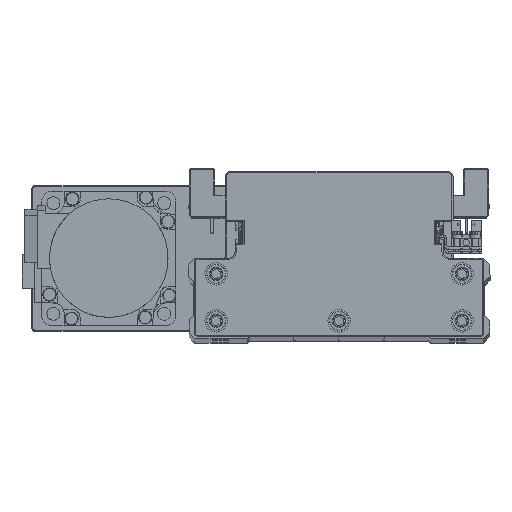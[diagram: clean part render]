
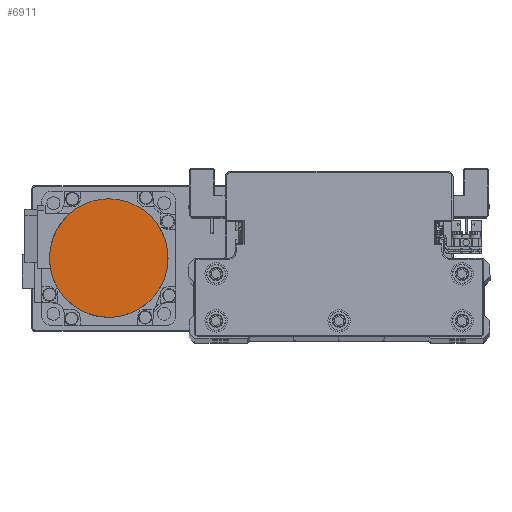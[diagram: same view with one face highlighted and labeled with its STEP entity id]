
A CAD part, top view. The second image highlights one B-rep face of the part: STEP entity #6911.
In plain terms, the highlighted planar face has unit normal (0, 0, 1) as drawn and (0, 0, -1) by its records, which use the part's own axes.
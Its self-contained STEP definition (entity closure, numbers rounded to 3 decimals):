
#1557 = CARTESIAN_POINT ( 'NONE',  ( -16.165, -21.07, -109.7 ) ) ;
#1748 = CARTESIAN_POINT ( 'NONE',  ( 26.329, 3.469, -109.7 ) ) ;
#1752 = CARTESIAN_POINT ( 'NONE',  ( 16.165, -21.07, -109.7 ) ) ;
#1975 = CARTESIAN_POINT ( 'NONE',  ( 3.469, 26.329, -109.7 ) ) ;
#2180 = CARTESIAN_POINT ( 'NONE',  ( -23.819, 11.744, -109.7 ) ) ;
#4682 = CARTESIAN_POINT ( 'NONE',  ( -21.07, -16.165, -109.7 ) ) ;
#4761 = EDGE_LOOP ( 'NONE', ( #26122, #6655 ) ) ;
#4892 = CARTESIAN_POINT ( 'NONE',  ( 8.539, -25.147, -109.7 ) ) ;
#5082 = CARTESIAN_POINT ( 'NONE',  ( 11.744, 23.819, -109.7 ) ) ;
#5087 = CARTESIAN_POINT ( 'NONE',  ( 26.5, 0., -109.7 ) ) ;
#5313 = CARTESIAN_POINT ( 'NONE',  ( -19.965, 17.512, -109.7 ) ) ;
#6655 = ORIENTED_EDGE ( 'NONE', *, *, #8454, .F. ) ;
#6911 = ADVANCED_FACE ( 'NONE', ( #34322 ), #15387, .F. ) ;
#7586 = VERTEX_POINT ( 'NONE', #27098 ) ;
#7605 = VERTEX_POINT ( 'NONE', #20864 ) ;
#7812 = CARTESIAN_POINT ( 'NONE',  ( -25.147, -8.539, -109.7 ) ) ;
#8037 = CARTESIAN_POINT ( 'NONE',  ( 1.734, -26.5, -109.7 ) ) ;
#8233 = CARTESIAN_POINT ( 'NONE',  ( 17.512, 19.965, -109.7 ) ) ;
#8237 = CARTESIAN_POINT ( 'NONE',  ( 25.652, -6.871, -109.7 ) ) ;
#8433 = CARTESIAN_POINT ( 'NONE',  ( -13.28, 22.998, -109.7 ) ) ;
#8454 = EDGE_CURVE ( 'NONE', #7586, #7605, #22142, .T. ) ;
#10945 = CARTESIAN_POINT ( 'NONE',  ( -26.5, -1.734, -109.7 ) ) ;
#11153 = CARTESIAN_POINT ( 'NONE',  ( -6.871, -25.652, -109.7 ) ) ;
#11372 = CARTESIAN_POINT ( 'NONE',  ( 22.998, 13.28, -109.7 ) ) ;
#11375 = CARTESIAN_POINT ( 'NONE',  ( 22.998, -13.28, -109.7 ) ) ;
#11572 = CARTESIAN_POINT ( 'NONE',  ( -6.871, 25.652, -109.7 ) ) ;
#11770 = CARTESIAN_POINT ( 'NONE',  ( -26.5, 1.734, -109.7 ) ) ;
#12236 = DIRECTION ( 'NONE',  ( 1., 0., 0. ) ) ;
#14290 = CARTESIAN_POINT ( 'NONE',  ( -13.28, -22.998, -109.7 ) ) ;
#14490 = CARTESIAN_POINT ( 'NONE',  ( 25.652, 6.871, -109.7 ) ) ;
#14494 = CARTESIAN_POINT ( 'NONE',  ( 17.512, -19.965, -109.7 ) ) ;
#14716 = CARTESIAN_POINT ( 'NONE',  ( 1.734, 26.5, -109.7 ) ) ;
#14917 = CARTESIAN_POINT ( 'NONE',  ( -25.147, 8.539, -109.7 ) ) ;
#15387 = PLANE ( 'NONE',  #24477 ) ;
#17428 = CARTESIAN_POINT ( 'NONE',  ( -19.965, -17.512, -109.7 ) ) ;
#17621 = CARTESIAN_POINT ( 'NONE',  ( 26.5, 0., -109.7 ) ) ;
#17624 = CARTESIAN_POINT ( 'NONE',  ( 11.744, -23.819, -109.7 ) ) ;
#17830 = CARTESIAN_POINT ( 'NONE',  ( 8.539, 25.147, -109.7 ) ) ;
#18047 = CARTESIAN_POINT ( 'NONE',  ( -21.07, 16.165, -109.7 ) ) ;
#20550 = CARTESIAN_POINT ( 'NONE',  ( -23.819, -11.744, -109.7 ) ) ;
#20761 = CARTESIAN_POINT ( 'NONE',  ( 3.469, -26.329, -109.7 ) ) ;
#20864 = CARTESIAN_POINT ( 'NONE',  ( 26.5, 0., -109.7 ) ) ;
#20954 = CARTESIAN_POINT ( 'NONE',  ( 16.165, 21.07, -109.7 ) ) ;
#20959 = CARTESIAN_POINT ( 'NONE',  ( 26.329, -3.469, -109.7 ) ) ;
#21162 = CARTESIAN_POINT ( 'NONE',  ( -16.165, 21.07, -109.7 ) ) ;
#22142 = B_SPLINE_CURVE_WITH_KNOTS ( 'NONE', 3,
 ( #39529, #10945, #23664, #36379, #7812, #20550, #33260, #4682, #17428, #30135, #1557, #14290, #26998, #39730, #11153, #23885, #36604, #8037, #20761, #33465, #4892, #17624, #30323, #1752, #14494, #27223, #39959, #11375, #24094, #36803, #8237, #20959, #33661, #5087 ),
 .UNSPECIFIED., .F., .F.,
 ( 4, 2, 2, 2, 2, 2, 2, 2, 2, 2, 2, 2, 2, 2, 2, 2, 4 ),
 ( 0., 0.063, 0.125, 0.188, 0.25, 0.312, 0.375, 0.437, 0.5, 0.562, 0.625, 0.687, 0.75, 0.813, 0.875, 0.938, 1. ),
 .UNSPECIFIED. ) ;
#23664 = CARTESIAN_POINT ( 'NONE',  ( -26.329, -3.469, -109.7 ) ) ;
#23885 = CARTESIAN_POINT ( 'NONE',  ( -3.469, -26.329, -109.7 ) ) ;
#24091 = CARTESIAN_POINT ( 'NONE',  ( 21.07, 16.165, -109.7 ) ) ;
#24094 = CARTESIAN_POINT ( 'NONE',  ( 23.819, -11.744, -109.7 ) ) ;
#24288 = CARTESIAN_POINT ( 'NONE',  ( -8.539, 25.147, -109.7 ) ) ;
#24477 = AXIS2_PLACEMENT_3D ( 'NONE', #28094, #40814, #12236 ) ;
#24492 = CARTESIAN_POINT ( 'NONE',  ( -26.5, 0., -109.7 ) ) ;
#26122 = ORIENTED_EDGE ( 'NONE', *, *, #35432, .F. ) ;
#26998 = CARTESIAN_POINT ( 'NONE',  ( -11.744, -23.819, -109.7 ) ) ;
#27098 = CARTESIAN_POINT ( 'NONE',  ( -26.5, 0., -109.7 ) ) ;
#27219 = CARTESIAN_POINT ( 'NONE',  ( 25.147, 8.539, -109.7 ) ) ;
#27223 = CARTESIAN_POINT ( 'NONE',  ( 19.965, -17.512, -109.7 ) ) ;
#27428 = CARTESIAN_POINT ( 'NONE',  ( -1.734, 26.5, -109.7 ) ) ;
#27619 = CARTESIAN_POINT ( 'NONE',  ( -25.652, 6.871, -109.7 ) ) ;
#28094 = CARTESIAN_POINT ( 'NONE',  ( 0., 0., -109.7 ) ) ;
#30135 = CARTESIAN_POINT ( 'NONE',  ( -17.512, -19.965, -109.7 ) ) ;
#30319 = CARTESIAN_POINT ( 'NONE',  ( 26.5, 1.734, -109.7 ) ) ;
#30323 = CARTESIAN_POINT ( 'NONE',  ( 13.28, -22.998, -109.7 ) ) ;
#30546 = CARTESIAN_POINT ( 'NONE',  ( 6.871, 25.652, -109.7 ) ) ;
#30760 = CARTESIAN_POINT ( 'NONE',  ( -22.998, 13.28, -109.7 ) ) ;
#30998 = B_SPLINE_CURVE_WITH_KNOTS ( 'NONE', 3,
 ( #17621, #30319, #1748, #14490, #27219, #39955, #11372, #24091, #36799, #8233, #20954, #33658, #5082, #17830, #30546, #1975, #14716, #27428, #40154, #11572, #24288, #36994, #8433, #21162, #33879, #5313, #18047, #30760, #2180, #14917, #27619, #40343, #11770, #24492 ),
 .UNSPECIFIED., .F., .F.,
 ( 4, 2, 2, 2, 2, 2, 2, 2, 2, 2, 2, 2, 2, 2, 2, 2, 4 ),
 ( 0., 0.062, 0.125, 0.187, 0.25, 0.312, 0.375, 0.437, 0.5, 0.562, 0.625, 0.687, 0.75, 0.813, 0.875, 0.938, 1. ),
 .UNSPECIFIED. ) ;
#33260 = CARTESIAN_POINT ( 'NONE',  ( -22.998, -13.28, -109.7 ) ) ;
#33465 = CARTESIAN_POINT ( 'NONE',  ( 6.871, -25.652, -109.7 ) ) ;
#33658 = CARTESIAN_POINT ( 'NONE',  ( 13.28, 22.998, -109.7 ) ) ;
#33661 = CARTESIAN_POINT ( 'NONE',  ( 26.5, -1.734, -109.7 ) ) ;
#33879 = CARTESIAN_POINT ( 'NONE',  ( -17.512, 19.965, -109.7 ) ) ;
#34322 = FACE_OUTER_BOUND ( 'NONE', #4761, .T. ) ;
#35432 = EDGE_CURVE ( 'NONE', #7605, #7586, #30998, .T. ) ;
#36379 = CARTESIAN_POINT ( 'NONE',  ( -25.652, -6.871, -109.7 ) ) ;
#36604 = CARTESIAN_POINT ( 'NONE',  ( -1.734, -26.5, -109.7 ) ) ;
#36799 = CARTESIAN_POINT ( 'NONE',  ( 19.965, 17.512, -109.7 ) ) ;
#36803 = CARTESIAN_POINT ( 'NONE',  ( 25.147, -8.539, -109.7 ) ) ;
#36994 = CARTESIAN_POINT ( 'NONE',  ( -11.744, 23.819, -109.7 ) ) ;
#39529 = CARTESIAN_POINT ( 'NONE',  ( -26.5, 0., -109.7 ) ) ;
#39730 = CARTESIAN_POINT ( 'NONE',  ( -8.539, -25.147, -109.7 ) ) ;
#39955 = CARTESIAN_POINT ( 'NONE',  ( 23.819, 11.744, -109.7 ) ) ;
#39959 = CARTESIAN_POINT ( 'NONE',  ( 21.07, -16.165, -109.7 ) ) ;
#40154 = CARTESIAN_POINT ( 'NONE',  ( -3.469, 26.329, -109.7 ) ) ;
#40343 = CARTESIAN_POINT ( 'NONE',  ( -26.329, 3.469, -109.7 ) ) ;
#40814 = DIRECTION ( 'NONE',  ( 0., 0., 1. ) ) ;
